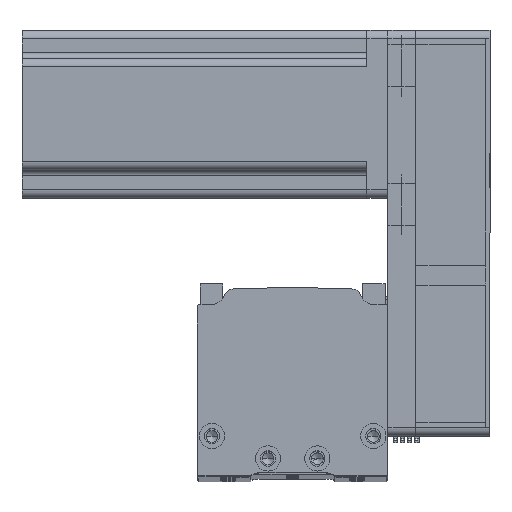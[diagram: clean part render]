
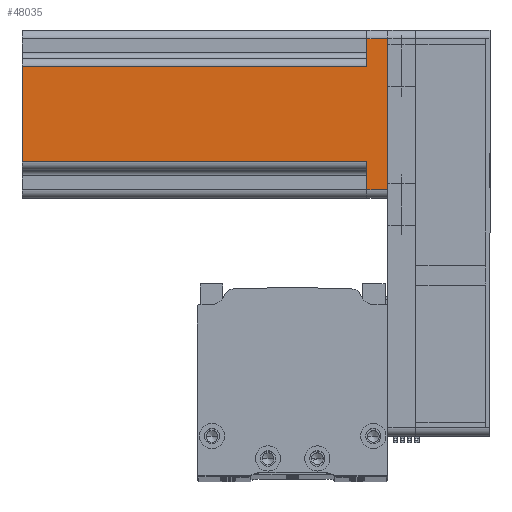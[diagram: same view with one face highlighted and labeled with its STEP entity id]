
A CAD part, top view. The second image highlights one B-rep face of the part: STEP entity #48035.
In plain terms, the highlighted planar face has unit normal (0, 0, 1) as drawn and (0, -1, 0) by its records, which use the part's own axes.
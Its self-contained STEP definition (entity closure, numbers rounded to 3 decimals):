
#9 = CARTESIAN_POINT ( 'NONE',  ( 30., -30., 130.7 ) ) ;
#1308 = LINE ( 'NONE', #2580, #42680 ) ;
#2354 = CARTESIAN_POINT ( 'NONE',  ( -17., -30., 130.7 ) ) ;
#2580 = CARTESIAN_POINT ( 'NONE',  ( 30., -30., 130.7 ) ) ;
#2899 = VERTEX_POINT ( 'NONE', #38489 ) ;
#3011 = VECTOR ( 'NONE', #10594, 1000. ) ;
#3563 = LINE ( 'NONE', #2354, #3011 ) ;
#3784 = EDGE_CURVE ( 'NONE', #24944, #19592, #3563, .T. ) ;
#4002 = PLANE ( 'NONE',  #10381 ) ;
#4192 = DIRECTION ( 'NONE',  ( -1., 0., 0. ) ) ;
#4584 = DIRECTION ( 'NONE',  ( 0., 0., -1. ) ) ;
#5131 = ORIENTED_EDGE ( 'NONE', *, *, #28460, .T. ) ;
#5511 = ORIENTED_EDGE ( 'NONE', *, *, #52506, .T. ) ;
#5549 = CARTESIAN_POINT ( 'NONE',  ( -20., -30., 7.5 ) ) ;
#6113 = VERTEX_POINT ( 'NONE', #35666 ) ;
#9324 = EDGE_CURVE ( 'NONE', #2899, #16546, #37588, .T. ) ;
#10131 = EDGE_CURVE ( 'NONE', #24944, #34207, #1308, .T. ) ;
#10381 = AXIS2_PLACEMENT_3D ( 'NONE', #9, #28947, #4192 ) ;
#10594 = DIRECTION ( 'NONE',  ( 0., 0., -1. ) ) ;
#12038 = DIRECTION ( 'NONE',  ( 1., 0., 0. ) ) ;
#13366 = ORIENTED_EDGE ( 'NONE', *, *, #10131, .F. ) ;
#13834 = CARTESIAN_POINT ( 'NONE',  ( -17., -30., 7.5 ) ) ;
#15552 = CARTESIAN_POINT ( 'NONE',  ( 17., -30., 7.5 ) ) ;
#16334 = FACE_OUTER_BOUND ( 'NONE', #32267, .T. ) ;
#16546 = VERTEX_POINT ( 'NONE', #41161 ) ;
#16923 = ORIENTED_EDGE ( 'NONE', *, *, #9324, .T. ) ;
#17081 = VECTOR ( 'NONE', #4584, 1000. ) ;
#17335 = VECTOR ( 'NONE', #38778, 1000. ) ;
#18174 = ORIENTED_EDGE ( 'NONE', *, *, #3784, .T. ) ;
#18380 = LINE ( 'NONE', #29362, #17081 ) ;
#19592 = VERTEX_POINT ( 'NONE', #13834 ) ;
#20754 = CARTESIAN_POINT ( 'NONE',  ( 17., -30., 130.7 ) ) ;
#21512 = CARTESIAN_POINT ( 'NONE',  ( 17., -30., 130.7 ) ) ;
#24944 = VERTEX_POINT ( 'NONE', #52822 ) ;
#24947 = VERTEX_POINT ( 'NONE', #45099 ) ;
#25261 = VECTOR ( 'NONE', #12038, 1000. ) ;
#27208 = VECTOR ( 'NONE', #33327, 1000. ) ;
#28460 = EDGE_CURVE ( 'NONE', #6113, #50134, #49243, .T. ) ;
#28947 = DIRECTION ( 'NONE',  ( 0., 1., 0. ) ) ;
#29362 = CARTESIAN_POINT ( 'NONE',  ( -27., -30., 130.7 ) ) ;
#30460 = CARTESIAN_POINT ( 'NONE',  ( 27., -30., 130.7 ) ) ;
#30883 = ORIENTED_EDGE ( 'NONE', *, *, #34977, .T. ) ;
#32267 = EDGE_LOOP ( 'NONE', ( #13366, #18174, #44558, #5511, #16923, #30883, #5131, #41723 ) ) ;
#32671 = CARTESIAN_POINT ( 'NONE',  ( 30., -30., 0. ) ) ;
#33327 = DIRECTION ( 'NONE',  ( -1., 0., 0. ) ) ;
#33368 = LINE ( 'NONE', #21512, #43024 ) ;
#34207 = VERTEX_POINT ( 'NONE', #20754 ) ;
#34977 = EDGE_CURVE ( 'NONE', #16546, #6113, #52849, .T. ) ;
#35666 = CARTESIAN_POINT ( 'NONE',  ( 27., -30., 7.5 ) ) ;
#37588 = LINE ( 'NONE', #32671, #25261 ) ;
#38489 = CARTESIAN_POINT ( 'NONE',  ( -27., -30., 0. ) ) ;
#38778 = DIRECTION ( 'NONE',  ( 1., 0., 0. ) ) ;
#41161 = CARTESIAN_POINT ( 'NONE',  ( 27., -30., 0. ) ) ;
#41638 = EDGE_CURVE ( 'NONE', #50134, #34207, #33368, .T. ) ;
#41723 = ORIENTED_EDGE ( 'NONE', *, *, #41638, .T. ) ;
#42126 = DIRECTION ( 'NONE',  ( 0., 0., 1. ) ) ;
#42680 = VECTOR ( 'NONE', #43953, 1000. ) ;
#43024 = VECTOR ( 'NONE', #42126, 1000. ) ;
#43953 = DIRECTION ( 'NONE',  ( 1., 0., 0. ) ) ;
#44558 = ORIENTED_EDGE ( 'NONE', *, *, #46164, .F. ) ;
#45099 = CARTESIAN_POINT ( 'NONE',  ( -27., -30., 7.5 ) ) ;
#45592 = CARTESIAN_POINT ( 'NONE',  ( 20., -30., 7.5 ) ) ;
#46164 = EDGE_CURVE ( 'NONE', #24947, #19592, #50331, .T. ) ;
#48035 = ADVANCED_FACE ( 'NONE', ( #16334 ), #4002, .F. ) ;
#49243 = LINE ( 'NONE', #45592, #27208 ) ;
#50134 = VERTEX_POINT ( 'NONE', #15552 ) ;
#50331 = LINE ( 'NONE', #5549, #17335 ) ;
#51053 = DIRECTION ( 'NONE',  ( 0., 0., 1. ) ) ;
#51588 = VECTOR ( 'NONE', #51053, 1000. ) ;
#52506 = EDGE_CURVE ( 'NONE', #24947, #2899, #18380, .T. ) ;
#52822 = CARTESIAN_POINT ( 'NONE',  ( -17., -30., 130.7 ) ) ;
#52849 = LINE ( 'NONE', #30460, #51588 ) ;
